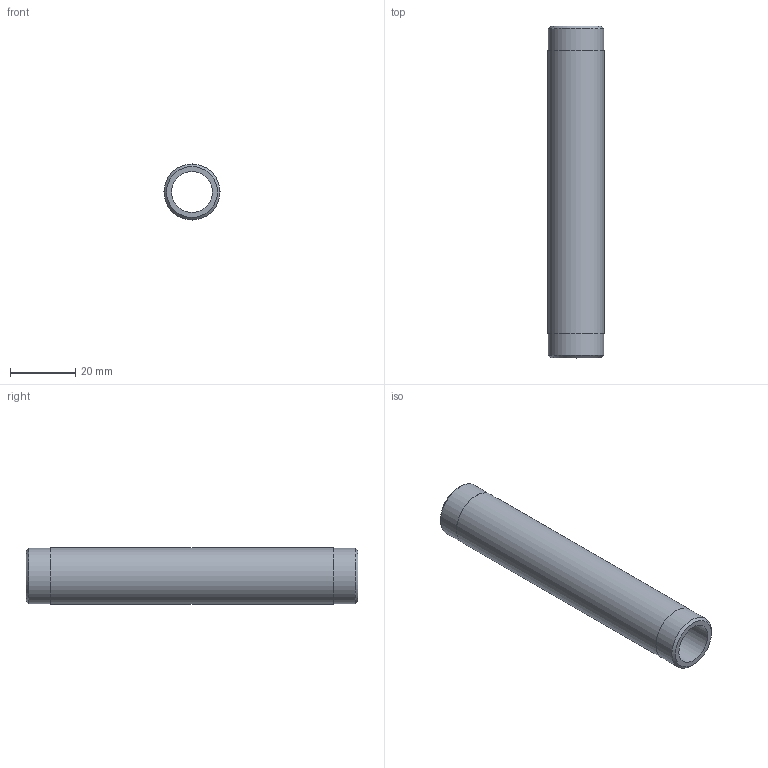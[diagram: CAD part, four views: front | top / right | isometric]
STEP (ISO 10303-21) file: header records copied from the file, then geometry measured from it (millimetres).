
FILE_DESCRIPTION(/* description */ (''),/* implementation_level */ '2;1');
FILE_NAME(/* name */ 'C:/Users/drich/Desktop/BPN38-4 v1.step',/* time_stamp */ '2020-01-03T15:21:41-06:00',/* author */ (''),/* organization */ (''),/* preprocessor_version */ 'ST-DEVELOPER v18',/* originating_system */ 'Autodesk Translation Framework v8.12.0.6',/* authorisation */ '');
FILE_SCHEMA (('AUTOMOTIVE_DESIGN { 1 0 10303 214 3 1 1 }'));
Length unit declared in the file: inch
Products named in the file (1): BPN38-4
Bounding box: 17.14 x 101.6 x 17.14 mm (x, y, z)
Volume: 10892.7 mm3; surface area: 9632.9 mm2
Topology: 1 solids, 1 shells, 10 faces, 24 edges, 18 vertices
Faces by surface type: cylinder 4, plane 4, cone 2
Full cylindrical faces by diameter (mm): 12.522 x1, 17.094 x2, 17.145 x1
Entity records: 360 total; most frequent: DIRECTION 64, CARTESIAN_POINT 53, ORIENTED_EDGE 48, AXIS2_PLACEMENT_3D 29, EDGE_CURVE 24, CIRCLE 18, VERTEX_POINT 18, EDGE_LOOP 14
